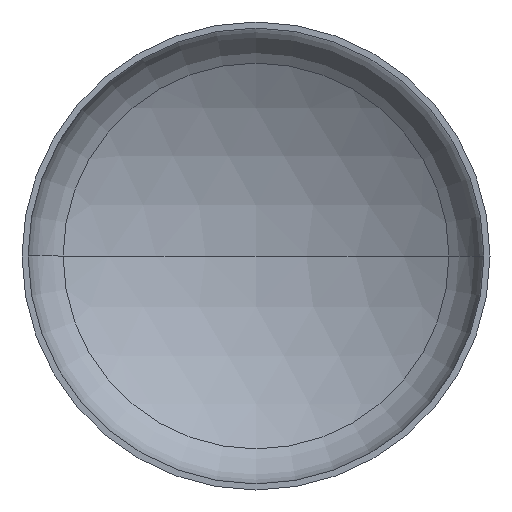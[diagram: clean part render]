
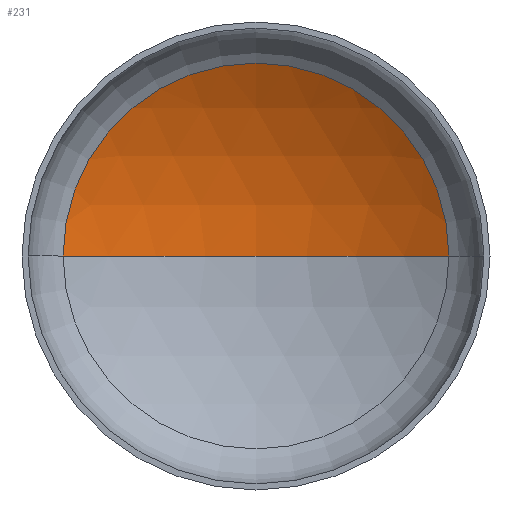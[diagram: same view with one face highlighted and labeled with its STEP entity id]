
A CAD part, front view. The second image highlights one B-rep face of the part: STEP entity #231.
In plain terms, the highlighted spherical face has radius 2880 mm.
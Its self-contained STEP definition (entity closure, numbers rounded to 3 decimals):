
#4 = AXIS2_PLACEMENT_3D ( 'NONE', #211, #381, #238 ) ;
#15 = DIRECTION ( 'NONE',  ( 0., 0., -1. ) ) ;
#16 = AXIS2_PLACEMENT_3D ( 'NONE', #17, #32, #28 ) ;
#17 = CARTESIAN_POINT ( 'NONE',  ( 0., -1842.592, 0. ) ) ;
#18 = AXIS2_PLACEMENT_3D ( 'NONE', #172, #168, #170 ) ;
#25 = DIRECTION ( 'NONE',  ( -1., 0., 0. ) ) ;
#28 = DIRECTION ( 'NONE',  ( -1., 0., 0. ) ) ;
#31 = EDGE_LOOP ( 'NONE', ( #316, #215, #135 ) ) ;
#32 = DIRECTION ( 'NONE',  ( 0., 0., -1. ) ) ;
#37 = AXIS2_PLACEMENT_3D ( 'NONE', #38, #15, #25 ) ;
#38 = CARTESIAN_POINT ( 'NONE',  ( 0., -1842.592, 0. ) ) ;
#60 = CIRCLE ( 'NONE', #4, 2880. ) ;
#82 = VERTEX_POINT ( 'NONE', #339 ) ;
#90 = VERTEX_POINT ( 'NONE', #304 ) ;
#98 = VERTEX_POINT ( 'NONE', #314 ) ;
#135 = ORIENTED_EDGE ( 'NONE', *, *, #347, .T. ) ;
#168 = DIRECTION ( 'NONE',  ( 0., -1., 0. ) ) ;
#170 = DIRECTION ( 'NONE',  ( 1., 0., 0. ) ) ;
#172 = CARTESIAN_POINT ( 'NONE',  ( 0., 625.651, 0. ) ) ;
#211 = CARTESIAN_POINT ( 'NONE',  ( 0., -1842.592, 0. ) ) ;
#215 = ORIENTED_EDGE ( 'NONE', *, *, #348, .T. ) ;
#231 = ADVANCED_FACE ( 'NONE', ( #276 ), #400, .F. ) ;
#238 = DIRECTION ( 'NONE',  ( 1., 0., 0. ) ) ;
#263 = CIRCLE ( 'NONE', #18, 1483.974 ) ;
#276 = FACE_OUTER_BOUND ( 'NONE', #31, .T. ) ;
#304 = CARTESIAN_POINT ( 'NONE',  ( 1483.974, 625.651, 0. ) ) ;
#314 = CARTESIAN_POINT ( 'NONE',  ( 0., 1037.408, 0. ) ) ;
#316 = ORIENTED_EDGE ( 'NONE', *, *, #392, .F. ) ;
#339 = CARTESIAN_POINT ( 'NONE',  ( -1483.974, 625.651, 0. ) ) ;
#347 = EDGE_CURVE ( 'NONE', #90, #82, #263, .T. ) ;
#348 = EDGE_CURVE ( 'NONE', #98, #90, #384, .T. ) ;
#381 = DIRECTION ( 'NONE',  ( 0., 0., 1. ) ) ;
#384 = CIRCLE ( 'NONE', #16, 2880. ) ;
#392 = EDGE_CURVE ( 'NONE', #98, #82, #60, .T. ) ;
#400 = SPHERICAL_SURFACE ( 'NONE', #37, 2880. ) ;
